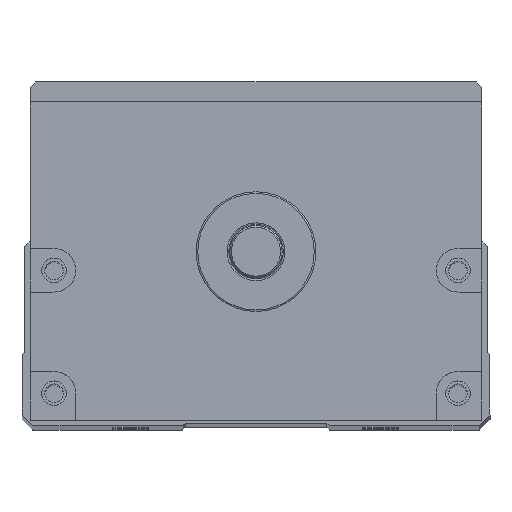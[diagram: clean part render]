
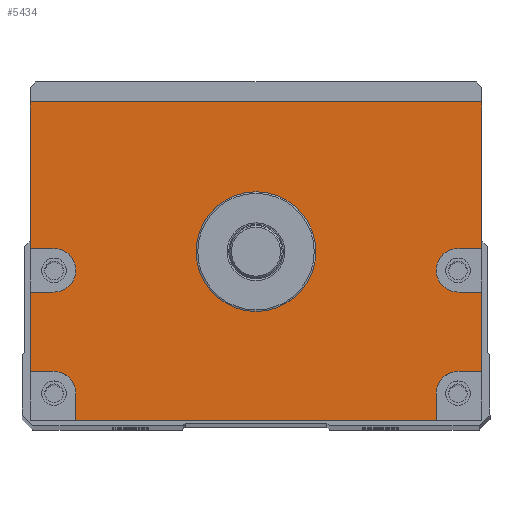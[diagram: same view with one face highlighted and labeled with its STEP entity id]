
A CAD part, top view. The second image highlights one B-rep face of the part: STEP entity #5434.
In plain terms, the highlighted planar face has unit normal (0, 0, 1).
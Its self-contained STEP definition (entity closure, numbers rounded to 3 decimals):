
#542=LINE('',#26288,#1245);
#544=LINE('',#26296,#1247);
#545=LINE('',#26299,#1248);
#546=LINE('',#26301,#1249);
#547=LINE('',#26305,#1250);
#548=LINE('',#26307,#1251);
#549=LINE('',#26308,#1252);
#550=LINE('',#26310,#1253);
#551=LINE('',#26314,#1254);
#552=LINE('',#26316,#1255);
#553=LINE('',#26318,#1256);
#554=LINE('',#26322,#1257);
#555=LINE('',#26324,#1258);
#556=LINE('',#26326,#1259);
#1245=VECTOR('',#14791,1.);
#1247=VECTOR('',#14799,1.);
#1248=VECTOR('',#14800,1.);
#1249=VECTOR('',#14801,1.);
#1250=VECTOR('',#14804,1.);
#1251=VECTOR('',#14805,1.);
#1252=VECTOR('',#14806,1.);
#1253=VECTOR('',#14807,1.);
#1254=VECTOR('',#14810,1.);
#1255=VECTOR('',#14811,1.);
#1256=VECTOR('',#14812,1.);
#1257=VECTOR('',#14815,1.);
#1258=VECTOR('',#14816,1.);
#1259=VECTOR('',#14817,1.);
#4952=FACE_BOUND('',#6846,.T.);
#4953=FACE_BOUND('',#6847,.T.);
#5434=ADVANCED_FACE('',(#4952,#4953),#5914,.T.);
#5914=PLANE('',#13283);
#6846=EDGE_LOOP('',(#8326,#8327,#8328,#8329,#8330,#8331,#8332,#8333,#8334,
#8335,#8336,#8337,#8338,#8339,#8340,#8341,#8342,#8343));
#6847=EDGE_LOOP('',(#8344));
#8326=ORIENTED_EDGE('',*,*,#11617,.F.);
#8327=ORIENTED_EDGE('',*,*,#11618,.T.);
#8328=ORIENTED_EDGE('',*,*,#11619,.F.);
#8329=ORIENTED_EDGE('',*,*,#11620,.F.);
#8330=ORIENTED_EDGE('',*,*,#11621,.F.);
#8331=ORIENTED_EDGE('',*,*,#11622,.T.);
#8332=ORIENTED_EDGE('',*,*,#11613,.T.);
#8333=ORIENTED_EDGE('',*,*,#11623,.T.);
#8334=ORIENTED_EDGE('',*,*,#11624,.F.);
#8335=ORIENTED_EDGE('',*,*,#11625,.F.);
#8336=ORIENTED_EDGE('',*,*,#11626,.F.);
#8337=ORIENTED_EDGE('',*,*,#11627,.T.);
#8338=ORIENTED_EDGE('',*,*,#11628,.F.);
#8339=ORIENTED_EDGE('',*,*,#11629,.F.);
#8340=ORIENTED_EDGE('',*,*,#11630,.F.);
#8341=ORIENTED_EDGE('',*,*,#11631,.T.);
#8342=ORIENTED_EDGE('',*,*,#11632,.F.);
#8343=ORIENTED_EDGE('',*,*,#11633,.F.);
#8344=ORIENTED_EDGE('',*,*,#11599,.T.);
#10483=VERTEX_POINT('',#26259);
#10496=VERTEX_POINT('',#26287);
#10497=VERTEX_POINT('',#26289);
#10500=VERTEX_POINT('',#26297);
#10501=VERTEX_POINT('',#26298);
#10502=VERTEX_POINT('',#26300);
#10503=VERTEX_POINT('',#26302);
#10504=VERTEX_POINT('',#26304);
#10505=VERTEX_POINT('',#26306);
#10506=VERTEX_POINT('',#26309);
#10507=VERTEX_POINT('',#26311);
#10508=VERTEX_POINT('',#26313);
#10509=VERTEX_POINT('',#26315);
#10510=VERTEX_POINT('',#26317);
#10511=VERTEX_POINT('',#26319);
#10512=VERTEX_POINT('',#26321);
#10513=VERTEX_POINT('',#26323);
#10514=VERTEX_POINT('',#26325);
#10515=VERTEX_POINT('',#26327);
#11599=EDGE_CURVE('',#10483,#10483,#12668,.T.);
#11613=EDGE_CURVE('',#10497,#10496,#542,.T.);
#11617=EDGE_CURVE('',#10500,#10501,#544,.T.);
#11618=EDGE_CURVE('',#10500,#10502,#545,.T.);
#11619=EDGE_CURVE('',#10503,#10502,#546,.T.);
#11620=EDGE_CURVE('',#10504,#10503,#12679,.T.);
#11621=EDGE_CURVE('',#10505,#10504,#547,.T.);
#11622=EDGE_CURVE('',#10505,#10497,#548,.T.);
#11623=EDGE_CURVE('',#10496,#10506,#549,.T.);
#11624=EDGE_CURVE('',#10507,#10506,#550,.T.);
#11625=EDGE_CURVE('',#10508,#10507,#12680,.T.);
#11626=EDGE_CURVE('',#10509,#10508,#551,.T.);
#11627=EDGE_CURVE('',#10509,#10510,#552,.T.);
#11628=EDGE_CURVE('',#10511,#10510,#553,.T.);
#11629=EDGE_CURVE('',#10512,#10511,#12681,.T.);
#11630=EDGE_CURVE('',#10513,#10512,#554,.T.);
#11631=EDGE_CURVE('',#10513,#10514,#555,.T.);
#11632=EDGE_CURVE('',#10515,#10514,#556,.T.);
#11633=EDGE_CURVE('',#10501,#10515,#12682,.T.);
#12668=CIRCLE('',#13265,11.);
#12679=CIRCLE('',#13279,4.);
#12680=CIRCLE('',#13280,4.);
#12681=CIRCLE('',#13281,4.);
#12682=CIRCLE('',#13282,4.);
#13265=AXIS2_PLACEMENT_3D('',#26258,#14764,#14765);
#13279=AXIS2_PLACEMENT_3D('',#26303,#14802,#14803);
#13280=AXIS2_PLACEMENT_3D('',#26312,#14808,#14809);
#13281=AXIS2_PLACEMENT_3D('',#26320,#14813,#14814);
#13282=AXIS2_PLACEMENT_3D('',#26328,#14818,#14819);
#13283=AXIS2_PLACEMENT_3D('',#26329,#14820,#14821);
#14764=DIRECTION('',(0.,0.,-1.));
#14765=DIRECTION('',(1.,0.,0.));
#14791=DIRECTION('',(-1.,0.,0.));
#14799=DIRECTION('',(-1.,0.,0.));
#14800=DIRECTION('',(0.,1.,0.));
#14801=DIRECTION('',(1.,0.,0.));
#14802=DIRECTION('',(0.,0.,1.));
#14803=DIRECTION('',(1.,0.,0.));
#14804=DIRECTION('',(-1.,0.,0.));
#14805=DIRECTION('',(0.,1.,0.));
#14806=DIRECTION('',(0.,-1.,0.));
#14807=DIRECTION('',(-1.,0.,0.));
#14808=DIRECTION('',(0.,0.,1.));
#14809=DIRECTION('',(1.,0.,0.));
#14810=DIRECTION('',(1.,0.,0.));
#14811=DIRECTION('',(0.,-1.,0.));
#14812=DIRECTION('',(-1.,0.,0.));
#14813=DIRECTION('',(0.,0.,1.));
#14814=DIRECTION('',(1.,0.,0.));
#14815=DIRECTION('',(0.,1.,0.));
#14816=DIRECTION('',(1.,0.,0.));
#14817=DIRECTION('',(0.,-1.,0.));
#14818=DIRECTION('',(0.,0.,1.));
#14819=DIRECTION('',(1.,0.,0.));
#14820=DIRECTION('',(0.,0.,1.));
#14821=DIRECTION('',(1.,0.,0.));
#26258=CARTESIAN_POINT('',(600.,0.,282.5));
#26259=CARTESIAN_POINT('',(611.,0.,282.5));
#26287=CARTESIAN_POINT('',(558.5,27.5,282.5));
#26288=CARTESIAN_POINT('',(641.5,27.5,282.5));
#26289=CARTESIAN_POINT('',(641.5,27.5,282.5));
#26296=CARTESIAN_POINT('',(641.5,-22.,282.5));
#26297=CARTESIAN_POINT('',(641.5,-22.,282.5));
#26298=CARTESIAN_POINT('',(637.115,-22.,282.5));
#26299=CARTESIAN_POINT('',(641.5,-31.,282.5));
#26300=CARTESIAN_POINT('',(641.5,-7.431,282.5));
#26301=CARTESIAN_POINT('',(641.5,-7.431,282.5));
#26302=CARTESIAN_POINT('',(637.115,-7.431,282.5));
#26303=CARTESIAN_POINT('',(637.115,-3.431,282.5));
#26304=CARTESIAN_POINT('',(637.115,0.569,282.5));
#26305=CARTESIAN_POINT('',(641.5,0.569,282.5));
#26306=CARTESIAN_POINT('',(641.5,0.569,282.5));
#26307=CARTESIAN_POINT('',(641.5,-31.,282.5));
#26308=CARTESIAN_POINT('',(558.5,27.5,282.5));
#26309=CARTESIAN_POINT('',(558.5,0.569,282.5));
#26310=CARTESIAN_POINT('',(641.5,0.569,282.5));
#26311=CARTESIAN_POINT('',(562.885,0.569,282.5));
#26312=CARTESIAN_POINT('',(562.885,-3.431,282.5));
#26313=CARTESIAN_POINT('',(562.885,-7.431,282.5));
#26314=CARTESIAN_POINT('',(641.5,-7.431,282.5));
#26315=CARTESIAN_POINT('',(558.5,-7.431,282.5));
#26316=CARTESIAN_POINT('',(558.5,27.5,282.5));
#26317=CARTESIAN_POINT('',(558.5,-22.,282.5));
#26318=CARTESIAN_POINT('',(641.5,-22.,282.5));
#26319=CARTESIAN_POINT('',(562.885,-22.,282.5));
#26320=CARTESIAN_POINT('',(562.885,-26.,282.5));
#26321=CARTESIAN_POINT('',(566.885,-26.,282.5));
#26322=CARTESIAN_POINT('',(566.885,-31.,282.5));
#26323=CARTESIAN_POINT('',(566.885,-31.,282.5));
#26324=CARTESIAN_POINT('',(558.5,-31.,282.5));
#26325=CARTESIAN_POINT('',(633.115,-31.,282.5));
#26326=CARTESIAN_POINT('',(633.115,-31.,282.5));
#26327=CARTESIAN_POINT('',(633.115,-26.,282.5));
#26328=CARTESIAN_POINT('',(637.115,-26.,282.5));
#26329=CARTESIAN_POINT('',(641.5,-31.,282.5));
